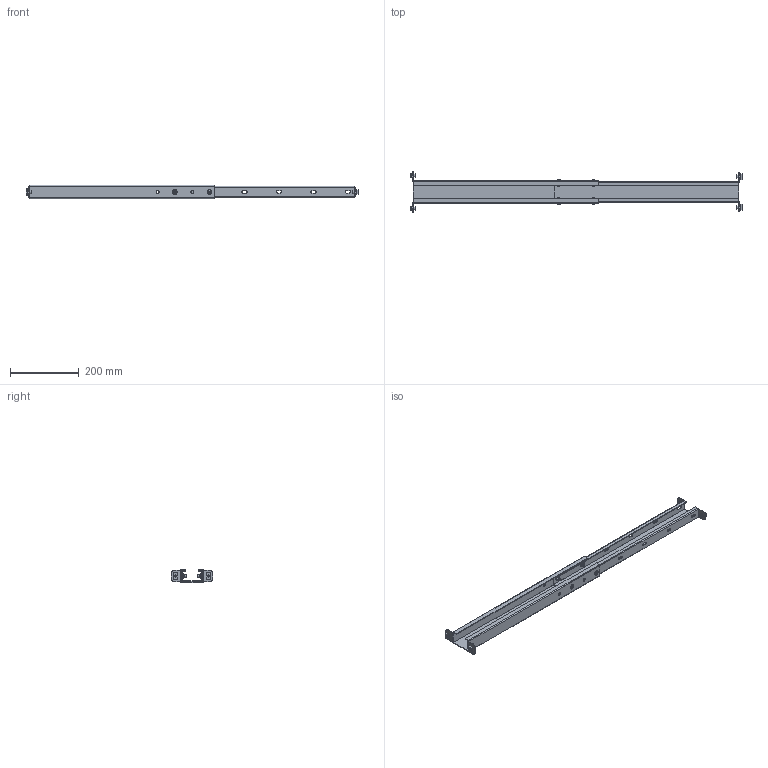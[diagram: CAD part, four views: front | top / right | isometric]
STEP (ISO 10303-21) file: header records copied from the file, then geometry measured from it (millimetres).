
FILE_DESCRIPTION(/* description */ ('Unknown','CAx-IF Rec.Pracs.---Representation and Presentation of Product Manufacturing Information (PMI)---4.0---2014-10-13','CAx-IF Rec.Pracs.---3D Tessellated Geometry---0.4---2014-09-14','2;1'),/* implementation_level */ '2;1');
FILE_NAME(/* name */ '127.00636_00-950mm',/* time_stamp */ '2024-09-30T15:09:00+02:00',/* author */ ('Unknown'),/* organization */ ('Unknown'),/* preprocessor_version */ 'ST-DEVELOPER v18.104',/* originating_system */ 'Solid Edge',/* authorisation */ 'Unknown');
FILE_SCHEMA (('AP242_MANAGED_MODEL_BASED_3D_ENGINEERING_MIM_LF { 1 0 10303 442 1 1 4 }'));
Length unit declared in the file: millimetre
Products named in the file (9): 127.00636; 096599~1; 096600~1; Sechskantmutter M6 DIN 934; Scheibe Ø6,4 DIN 125; 142.00081; 142.00018; 126.00495; Halbrundkopfschraube mit Innensechskant und Bund M6x16 ISO 7380-2
Assembly tree (26 placements, depth 2):
  127.00636
    096599~1
    096600~1
    Sechskantmutter M6 DIN 934  x4
    Scheibe Ø6,4 DIN 125  x4
    142.00081  x4
    142.00018  x4
    126.00495  x4
    Halbrundkopfschraube mit Innensechskant und Bund M6x16 ISO 7380-2  x4
Bounding box: 963.8 x 120 x 40 mm (x, y, z)
Volume: 416533 mm3; surface area: 345266.4 mm2
Topology: 26 solids, 26 shells, 544 faces, 1354 edges, 882 vertices
Faces by surface type: plane 256, cylinder 180, torus 72, bspline 24, cone 8, sphere 4
Full cylindrical faces by diameter (mm): 4.917 x4, 6 x12, 6.4 x8, 8.5 x12, 10 x4, 11 x4, 12 x4, 13.6 x4
Entity records: 8517 total; most frequent: CARTESIAN_POINT 1948, DIRECTION 1268, ORIENTED_EDGE 1224, EDGE_CURVE 612, AXIS2_PLACEMENT_3D 451, VERTEX_POINT 420, LINE 366, VECTOR 366
